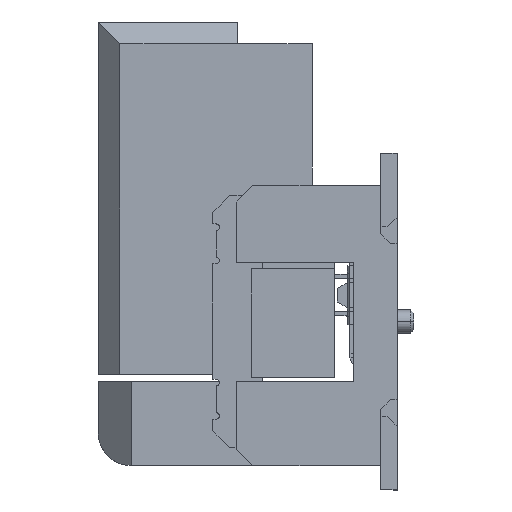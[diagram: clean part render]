
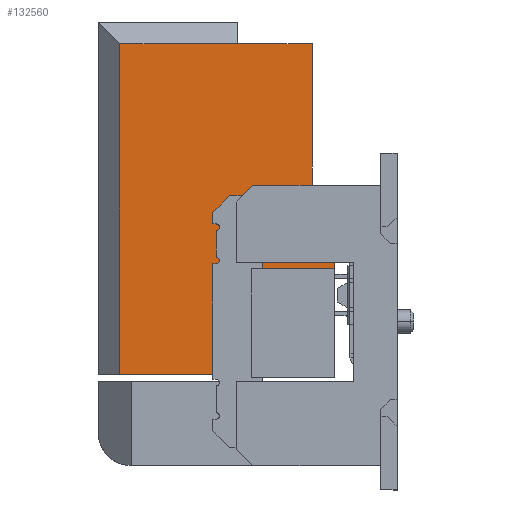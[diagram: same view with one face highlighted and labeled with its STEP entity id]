
A CAD part, left-side view. The second image highlights one B-rep face of the part: STEP entity #132560.
In plain terms, the highlighted planar face has unit normal (-1, 0, 0) as drawn and (1, 0, 0) by its records, which use the part's own axes.
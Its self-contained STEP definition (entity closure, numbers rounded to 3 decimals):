
#87950=CARTESIAN_POINT('',(7.01,12.71,
4.8));
#87960=VERTEX_POINT('',#87950);
#131790=CARTESIAN_POINT('',(7.01,2.75,
4.4));
#131800=DIRECTION('',(1.,0.,-0.));
#131810=DIRECTION('',(0.,0.,1.));
#131820=AXIS2_PLACEMENT_3D('',#131790,#131800,#131810);
#131830=PLANE('',#131820);
#131840=CARTESIAN_POINT('',(7.01,8.055,
8.35));
#131850=DIRECTION('',(0.,1.,0.));
#131860=VECTOR('',#131850,1.);
#131870=LINE('',#131840,#131860);
#131880=CARTESIAN_POINT('',(7.01,2.75,
8.35));
#131890=VERTEX_POINT('',#131880);
#131900=CARTESIAN_POINT('',(7.01,12.71,
8.35));
#131910=VERTEX_POINT('',#131900);
#131920=EDGE_CURVE('',#131890,#131910,#131870,.T.);
#131930=ORIENTED_EDGE('',*,*,#131920,.F.);
#131940=CARTESIAN_POINT('',(7.01,12.71,
6.9));
#131950=DIRECTION('',(0.,0.,-1.));
#131960=VECTOR('',#131950,1.);
#131970=LINE('',#131940,#131960);
#131980=EDGE_CURVE('',#131910,#87960,#131970,.T.);
#131990=ORIENTED_EDGE('',*,*,#131980,.F.);
#132000=CARTESIAN_POINT('',(7.01,12.71,
1.9));
#132010=DIRECTION('',(0.,0.,1.));
#132020=VECTOR('',#132010,1.);
#132030=LINE('',#132000,#132020);
#132040=CARTESIAN_POINT('',(7.01,12.71,
2.56));
#132050=VERTEX_POINT('',#132040);
#132060=EDGE_CURVE('',#132050,#87960,#132030,.T.);
#132070=ORIENTED_EDGE('',*,*,#132060,.T.);
#132080=CARTESIAN_POINT('',(7.01,2.75,
2.56));
#132090=DIRECTION('',(0.,-1.,0.));
#132100=VECTOR('',#132090,1.);
#132110=LINE('',#132080,#132100);
#132120=CARTESIAN_POINT('',(7.01,8.33,
2.56));
#132130=VERTEX_POINT('',#132120);
#132140=EDGE_CURVE('',#132050,#132130,#132110,.T.);
#132150=ORIENTED_EDGE('',*,*,#132140,.F.);
#132160=CARTESIAN_POINT('',(7.01,8.33,
1.9));
#132170=DIRECTION('',(0.,0.,-1.));
#132180=VECTOR('',#132170,1.);
#132190=LINE('',#132160,#132180);
#132200=CARTESIAN_POINT('',(7.01,8.33,
1.9));
#132210=VERTEX_POINT('',#132200);
#132220=EDGE_CURVE('',#132130,#132210,#132190,.T.);
#132230=ORIENTED_EDGE('',*,*,#132220,.F.);
#132240=CARTESIAN_POINT('',(7.01,2.75,
1.9));
#132250=DIRECTION('',(0.,1.,0.));
#132260=VECTOR('',#132250,1.);
#132270=LINE('',#132240,#132260);
#132280=CARTESIAN_POINT('',(7.01,5.93,
1.9));
#132290=VERTEX_POINT('',#132280);
#132300=EDGE_CURVE('',#132290,#132210,#132270,.T.);
#132310=ORIENTED_EDGE('',*,*,#132300,.T.);
#132320=CARTESIAN_POINT('',(7.01,5.93,
1.9));
#132330=DIRECTION('',(0.,0.,1.));
#132340=VECTOR('',#132330,1.);
#132350=LINE('',#132320,#132340);
#132360=CARTESIAN_POINT('',(7.01,5.93,
4.4));
#132370=VERTEX_POINT('',#132360);
#132380=EDGE_CURVE('',#132290,#132370,#132350,.T.);
#132390=ORIENTED_EDGE('',*,*,#132380,.F.);
#132400=CARTESIAN_POINT('',(7.01,2.75,
4.4));
#132410=DIRECTION('',(0.,1.,0.));
#132420=VECTOR('',#132410,1.);
#132430=LINE('',#132400,#132420);
#132440=CARTESIAN_POINT('',(7.01,2.75,
4.4));
#132450=VERTEX_POINT('',#132440);
#132460=EDGE_CURVE('',#132450,#132370,#132430,.T.);
#132470=ORIENTED_EDGE('',*,*,#132460,.T.);
#132480=CARTESIAN_POINT('',(7.01,2.75,
9.));
#132490=DIRECTION('',(0.,0.,-1.));
#132500=VECTOR('',#132490,1.);
#132510=LINE('',#132480,#132500);
#132520=EDGE_CURVE('',#131890,#132450,#132510,.T.);
#132530=ORIENTED_EDGE('',*,*,#132520,.T.);
#132540=EDGE_LOOP('',(#132530,#132470,#132390,#132310,#132230,#132150,
#132070,#131990,#131930));
#132550=FACE_OUTER_BOUND('',#132540,.T.);
#132560=ADVANCED_FACE('',(#132550),#131830,.T.);
